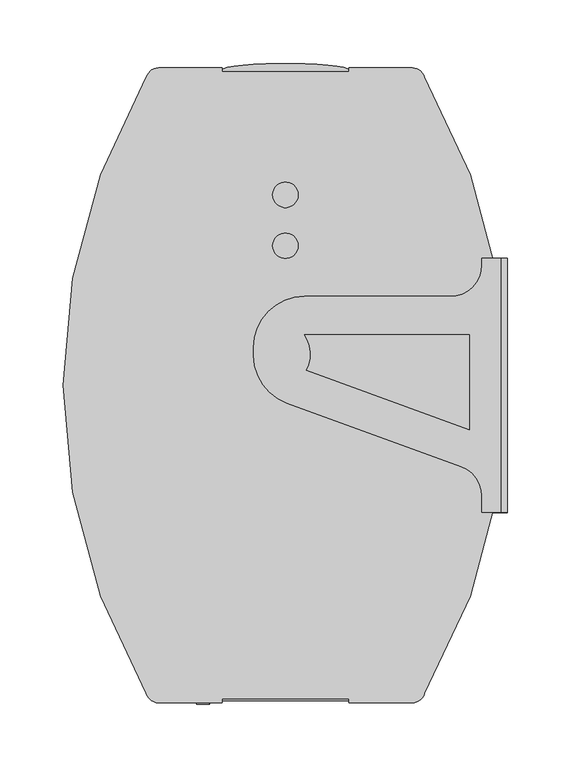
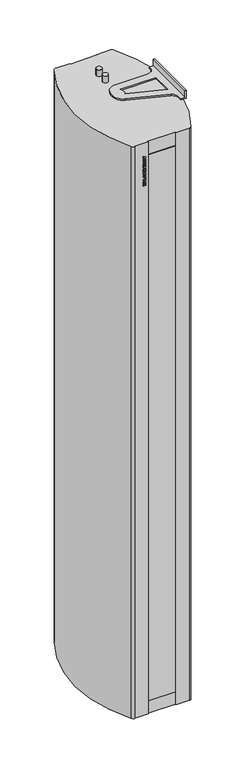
"""IFC4 building model written with IfcOpenShell, lengths in millimetres: proxy geometry, ADSK_Завеса дизайнерская_Водяная : KVC-S22W35-31."""

from ifc_helpers import new_model, si_unit, point, frame, origin, place, context, project, spatial, polyline, circle_curve, ellipse_curve, trimmed, outline, extrude, faceted_brep, source, transform, mapped, element, save
from ifc_brep_helpers import plane_surface, cylinder_surface, revolved_surface, extruded_surface, advanced_brep


def mechanical_equipment_8353c0a6(model_context):
    return source(origin(), model_context, "Body", "SolidModel", [
        advanced_brep(
        [(155.0, 100.0, -5.0), (170.0, 100.0, -5.0), (170.0, -100.0, -5.0), (155.0, -100.0, -5.0), (155.0, -87.5051885, -5.0), (138.5505036, -64.0128729, -5.0), (1.3191943, -14.0647611, -5.0), (-25.0, 23.5229437, -5.0), (-25.0, 30.0, -5.0), (15.0, 70.0, -5.0), (130.0, 70.0, -5.0), (155.0, 95.0, -5.0), (145.0, -34.8821335, -5.0), (145.0, 40.0, -5.0), (15.0, 40.0, -5.0), (16.5981063, 11.8523338, -5.0), (155.0, 100.0, 0.0), (155.0, 95.0, 0.0), (130.0, 70.0, 0.0), (15.0, 70.0, 0.0), (-25.0, 30.0, 0.0), (-25.0, 23.5229437, 0.0), (1.3191943, -14.0647611, 0.0), (138.5505036, -64.0128729, 0.0), (155.0, -87.5051885, 0.0), (155.0, -100.0, 0.0), (175.0, -100.0, 0.0), (175.0, 100.0, 0.0), (145.0, -34.8821335, 0.0), (16.5981063, 11.8523338, 0.0), (15.0, 40.0, 0.0), (145.0, 40.0, 0.0), (175.0, 100.0, -30.0), (170.0, 100.0, -30.0), (170.0, -100.0, -30.0), (175.0, -100.0, -30.0)],
        [
            (0, 1),
            (1, 2),
            (2, 3),
            (3, 4),
            (4, 5, circle_curve(frame((130.0, -87.5051885, -5.0), z_axis=(0.0, 0.0, 1.0), x_axis=(1.0, 0.0, 0.0)), 25.0)),
            (5, 6),
            (6, 7, circle_curve(frame((15.0, 23.5229437, -5.0), z_axis=(0.0, 0.0, -1.0), x_axis=(1.0, 0.0, 0.0)), 40.0)),
            (7, 8),
            (8, 9, circle_curve(frame((15.0, 30.0, -5.0), z_axis=(0.0, 0.0, -1.0), x_axis=(1.0, 0.0, 0.0)), 40.0)),
            (9, 10),
            (10, 11, circle_curve(frame((130.0, 95.0, -5.0), z_axis=(0.0, 0.0, 1.0), x_axis=(1.0, 0.0, 0.0)), 25.0)),
            (11, 0),
            (12, 13),
            (13, 14),
            (14, 15, circle_curve(frame((-7.1937545, 24.6207318, -5.0), z_axis=(0.0, 0.0, -1.0), x_axis=(1.0, 0.0, 0.0)), 27.0015672)),
            (15, 12),
            (16, 17),
            (17, 18, circle_curve(frame((130.0, 95.0, 0.0), z_axis=(0.0, 0.0, -1.0), x_axis=(1.0, 0.0, 0.0)), 25.0)),
            (18, 19),
            (19, 20, circle_curve(frame((15.0, 30.0, 0.0), z_axis=(0.0, 0.0, 1.0), x_axis=(1.0, 0.0, 0.0)), 40.0)),
            (20, 21),
            (21, 22, circle_curve(frame((15.0, 23.5229437, 0.0), z_axis=(0.0, 0.0, 1.0), x_axis=(1.0, 0.0, 0.0)), 40.0)),
            (22, 23),
            (23, 24, circle_curve(frame((130.0, -87.5051885, 0.0), z_axis=(0.0, 0.0, -1.0), x_axis=(1.0, 0.0, 0.0)), 25.0)),
            (24, 25),
            (25, 26),
            (26, 27),
            (27, 16),
            (28, 29),
            (29, 30, circle_curve(frame((-7.1937545, 24.6207318, 0.0), z_axis=(0.0, 0.0, 1.0), x_axis=(1.0, 0.0, 0.0)), 27.0015672)),
            (30, 31),
            (31, 28),
            (27, 32),
            (32, 33),
            (33, 1),
            (0, 16),
            (7, 21),
            (20, 8),
            (2, 34),
            (34, 35),
            (35, 26),
            (25, 3),
            (35, 32),
            (11, 17),
            (10, 18),
            (9, 19),
            (6, 22),
            (5, 23),
            (4, 24),
            (15, 29),
            (28, 12),
            (14, 30),
            (13, 31),
            (34, 33),
        ],
        [
            plane_surface(frame((-25.0, 100.0, -5.0), z_axis=(0.0, 0.0, -1.0), x_axis=(-1.0, 0.0, 0.0))),
            plane_surface(frame((-25.0, 100.0, 0.0), z_axis=(0.0, 0.0, 1.0), x_axis=(1.0, 0.0, 0.0))),
            plane_surface(frame((175.0, 100.0, -5.0), z_axis=(0.0, 1.0, 0.0), x_axis=(0.0, 0.0, 1.0))),
            plane_surface(frame((-25.0, 30.0, -5.0), z_axis=(-1.0, 0.0, 0.0), x_axis=(0.0, 0.0, 1.0))),
            plane_surface(frame((155.0, -100.0, -5.0), z_axis=(0.0, -1.0, 0.0), x_axis=(0.0, 0.0, 1.0))),
            plane_surface(frame((175.0, -100.0, -5.0), z_axis=(1.0, 0.0, 0.0), x_axis=(0.0, 0.0, 1.0))),
            plane_surface(frame((155.0, 100.0, -5.0), z_axis=(-1.0, 0.0, 0.0), x_axis=(0.0, 0.0, 1.0))),
            revolved_surface(polyline([(155.0, 95.0, 0.0), (155.0, 95.0, -5.0)]), (130.0, 95.0, 0.0), (0.0, 0.0, 1.0)),
            plane_surface(frame((130.0, 70.0, -5.0), z_axis=(0.0, 1.0, 0.0), x_axis=(0.0, 0.0, 1.0))),
            cylinder_surface(frame((15.0, 30.0, 0.0), z_axis=(0.0, 0.0, -1.0), x_axis=(1.0, 0.0, 0.0)), 40.0),
            cylinder_surface(frame((15.0, 23.5229437, 0.0), z_axis=(0.0, 0.0, -1.0), x_axis=(1.0, 0.0, 0.0)), 40.0),
            plane_surface(frame((1.3191943, -14.0647611, -5.0), z_axis=(-0.3420201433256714, -0.9396926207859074, 0.0), x_axis=(0.0, 0.0, 1.0))),
            revolved_surface(polyline([(155.0, -87.5051885, 0.0), (155.0, -87.5051885, -5.0)]), (130.0, -87.5051885, 0.0), (0.0, 0.0, 1.0)),
            plane_surface(frame((155.0, -87.5051885, -5.0), z_axis=(-1.0, 0.0, 0.0), x_axis=(0.0, 0.0, 1.0))),
            plane_surface(frame((145.0, -34.8821335, -5.0), z_axis=(0.3420201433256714, 0.9396926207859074, 0.0), x_axis=(0.0, 0.0, 1.0))),
            cylinder_surface(frame((-7.1937545, 24.6207318, 0.0), z_axis=(0.0, 0.0, -1.0), x_axis=(1.0, 0.0, 0.0)), 27.0015672),
            plane_surface(frame((15.0, 40.0, -5.0), z_axis=(0.0, -1.0, 0.0), x_axis=(0.0, 0.0, 1.0))),
            plane_surface(frame((145.0, 40.0, -5.0), z_axis=(-1.0, 0.0, 0.0), x_axis=(0.0, 0.0, 1.0))),
            plane_surface(frame((170.0, 126.8049179, -30.0), z_axis=(0.0, 0.0, -1.0), x_axis=(0.0, -1.0, 0.0))),
            plane_surface(frame((170.0, 100.0, -30.0), z_axis=(-1.0, 0.0, 0.0), x_axis=(0.0, 0.0, 1.0))),
        ],
        [
            (0, [[1, 2, 3, 4, 5, 6, 7, 8, 9, 10, 11, 12], [13, 14, 15, 16]]),
            (1, [[17, 18, 19, 20, 21, 22, 23, 24, 25, 26, 27, 28], [29, 30, 31, 32]]),
            (2, [[-28, 33, 34, 35, -1, 36]]),
            (3, [[37, -21, 38, -8]]),
            (4, [[-3, 39, 40, 41, -26, 42]]),
            (5, [[43, -33, -27, -41]]),
            (6, [[44, -17, -36, -12]]),
            (7, [[45, -18, -44, -11]]),
            (8, [[46, -19, -45, -10]]),
            (9, [[-38, -20, -46, -9]]),
            (10, [[47, -22, -37, -7]]),
            (11, [[48, -23, -47, -6]]),
            (12, [[49, -24, -48, -5]]),
            (13, [[-42, -25, -49, -4]]),
            (14, [[50, -29, 51, -16]]),
            (15, [[52, -30, -50, -15]]),
            (16, [[53, -31, -52, -14]]),
            (17, [[-51, -32, -53, -13]]),
            (18, [[-34, -43, -40, 54]]),
            (19, [[-39, -2, -35, -54]]),
        ],
    ),
        advanced_brep(
        [(155.0, 100.0, 2219.0), (155.0, 95.0, 2219.0), (130.0, 70.0, 2219.0), (15.0, 70.0, 2219.0), (-25.0, 30.0, 2219.0), (-25.0, 23.5229437, 2219.0), (1.3191943, -14.0647611, 2219.0), (138.5505036, -64.0128729, 2219.0), (155.0, -87.5051885, 2219.0), (155.0, -100.0, 2219.0), (170.0, -100.0, 2219.0), (170.0, 100.0, 2219.0), (145.0, -34.8821335, 2219.0), (16.5981063, 11.8523338, 2219.0), (15.0, 40.0, 2219.0), (145.0, 40.0, 2219.0), (155.0, 100.0, 2214.0), (175.0, 100.0, 2214.0), (175.0, -100.0, 2214.0), (155.0, -100.0, 2214.0), (155.0, -87.5051885, 2214.0), (138.5505036, -64.0128729, 2214.0), (1.3191943, -14.0647611, 2214.0), (-25.0, 23.5229437, 2214.0), (-25.0, 30.0, 2214.0), (15.0, 70.0, 2214.0), (130.0, 70.0, 2214.0), (155.0, 95.0, 2214.0), (145.0, -34.8821335, 2214.0), (145.0, 40.0, 2214.0), (15.0, 40.0, 2214.0), (16.5981063, 11.8523338, 2214.0), (170.0, 100.0, 2244.0), (175.0, 100.0, 2244.0), (175.0, -100.0, 2244.0), (170.0, -100.0, 2244.0)],
        [
            (0, 1),
            (1, 2, circle_curve(frame((130.0, 95.0, 2219.0), z_axis=(0.0, 0.0, -1.0), x_axis=(1.0, 0.0, 0.0)), 25.0)),
            (2, 3),
            (3, 4, circle_curve(frame((15.0, 30.0, 2219.0), z_axis=(0.0, 0.0, 1.0), x_axis=(1.0, 0.0, 0.0)), 40.0)),
            (4, 5),
            (5, 6, circle_curve(frame((15.0, 23.5229437, 2219.0), z_axis=(0.0, 0.0, 1.0), x_axis=(1.0, 0.0, 0.0)), 40.0)),
            (6, 7),
            (7, 8, circle_curve(frame((130.0, -87.5051885, 2219.0), z_axis=(0.0, 0.0, -1.0), x_axis=(1.0, 0.0, 0.0)), 25.0)),
            (8, 9),
            (9, 10),
            (10, 11),
            (11, 0),
            (12, 13),
            (13, 14, circle_curve(frame((-7.1937545, 24.6207318, 2219.0), z_axis=(0.0, 0.0, 1.0), x_axis=(1.0, 0.0, 0.0)), 27.0015672)),
            (14, 15),
            (15, 12),
            (16, 17),
            (17, 18),
            (18, 19),
            (19, 20),
            (20, 21, circle_curve(frame((130.0, -87.5051885, 2214.0), z_axis=(0.0, 0.0, 1.0), x_axis=(1.0, 0.0, 0.0)), 25.0)),
            (21, 22),
            (22, 23, circle_curve(frame((15.0, 23.5229437, 2214.0), z_axis=(0.0, 0.0, -1.0), x_axis=(1.0, 0.0, 0.0)), 40.0)),
            (23, 24),
            (24, 25, circle_curve(frame((15.0, 30.0, 2214.0), z_axis=(0.0, 0.0, -1.0), x_axis=(1.0, 0.0, 0.0)), 40.0)),
            (25, 26),
            (26, 27, circle_curve(frame((130.0, 95.0, 2214.0), z_axis=(0.0, 0.0, 1.0), x_axis=(1.0, 0.0, 0.0)), 25.0)),
            (27, 16),
            (28, 29),
            (29, 30),
            (30, 31, circle_curve(frame((-7.1937545, 24.6207318, 2214.0), z_axis=(0.0, 0.0, -1.0), x_axis=(1.0, 0.0, 0.0)), 27.0015672)),
            (31, 28),
            (16, 0),
            (11, 32),
            (32, 33),
            (33, 17),
            (4, 24),
            (23, 5),
            (9, 19),
            (18, 34),
            (34, 35),
            (35, 10),
            (33, 34),
            (27, 1),
            (26, 2),
            (25, 3),
            (22, 6),
            (21, 7),
            (20, 8),
            (12, 28),
            (31, 13),
            (30, 14),
            (29, 15),
            (32, 35),
        ],
        [
            plane_surface(frame((-25.0, 100.0, 2219.0), z_axis=(0.0, 0.0, 1.0), x_axis=(-1.0, 0.0, 0.0))),
            plane_surface(frame((-25.0, 100.0, 2214.0), z_axis=(0.0, 0.0, -1.0), x_axis=(1.0, 0.0, 0.0))),
            plane_surface(frame((175.0, 100.0, 2219.0), z_axis=(0.0, 1.0, 0.0), x_axis=(0.0, 0.0, -1.0))),
            plane_surface(frame((-25.0, 30.0, 2219.0), z_axis=(-1.0, 0.0, 0.0), x_axis=(0.0, 0.0, -1.0))),
            plane_surface(frame((155.0, -100.0, 2219.0), z_axis=(0.0, -1.0, 0.0), x_axis=(0.0, 0.0, -1.0))),
            plane_surface(frame((175.0, -100.0, 2219.0), z_axis=(1.0, 0.0, 0.0), x_axis=(0.0, 0.0, -1.0))),
            plane_surface(frame((155.0, 100.0, 2219.0), z_axis=(-1.0, 0.0, 0.0), x_axis=(0.0, 0.0, -1.0))),
            revolved_surface(polyline([(155.0, 95.0, 2214.0), (155.0, 95.0, 2219.0)]), (130.0, 95.0, 2214.0), (0.0, 0.0, -1.0)),
            plane_surface(frame((130.0, 70.0, 2219.0), z_axis=(0.0, 1.0, 0.0), x_axis=(0.0, 0.0, -1.0))),
            cylinder_surface(frame((15.0, 30.0, 2214.0), z_axis=(0.0, 0.0, 1.0), x_axis=(1.0, 0.0, 0.0)), 40.0),
            cylinder_surface(frame((15.0, 23.5229437, 2214.0), z_axis=(0.0, 0.0, 1.0), x_axis=(1.0, 0.0, 0.0)), 40.0),
            plane_surface(frame((1.3191943, -14.0647611, 2219.0), z_axis=(-0.3420201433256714, -0.9396926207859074, 0.0), x_axis=(0.0, 0.0, -1.0))),
            revolved_surface(polyline([(155.0, -87.5051885, 2214.0), (155.0, -87.5051885, 2219.0)]), (130.0, -87.5051885, 2214.0), (0.0, 0.0, -1.0)),
            plane_surface(frame((155.0, -87.5051885, 2219.0), z_axis=(-1.0, 0.0, 0.0), x_axis=(0.0, 0.0, -1.0))),
            plane_surface(frame((145.0, -34.8821335, 2219.0), z_axis=(0.3420201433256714, 0.9396926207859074, 0.0), x_axis=(0.0, 0.0, -1.0))),
            cylinder_surface(frame((-7.1937545, 24.6207318, 2214.0), z_axis=(0.0, 0.0, 1.0), x_axis=(1.0, 0.0, 0.0)), 27.0015672),
            plane_surface(frame((15.0, 40.0, 2219.0), z_axis=(0.0, -1.0, 0.0), x_axis=(0.0, 0.0, -1.0))),
            plane_surface(frame((145.0, 40.0, 2219.0), z_axis=(-1.0, 0.0, 0.0), x_axis=(0.0, 0.0, -1.0))),
            plane_surface(frame((170.0, 126.8049179, 2244.0), z_axis=(0.0, 0.0, 1.0), x_axis=(0.0, -1.0, 0.0))),
            plane_surface(frame((170.0, 100.0, 2244.0), z_axis=(-1.0, 0.0, 0.0), x_axis=(0.0, 0.0, -1.0))),
        ],
        [
            (0, [[1, 2, 3, 4, 5, 6, 7, 8, 9, 10, 11, 12], [13, 14, 15, 16]]),
            (1, [[17, 18, 19, 20, 21, 22, 23, 24, 25, 26, 27, 28], [29, 30, 31, 32]]),
            (2, [[33, -12, 34, 35, 36, -17]]),
            (3, [[-5, 37, -24, 38]]),
            (4, [[39, -19, 40, 41, 42, -10]]),
            (5, [[-40, -18, -36, 43]]),
            (6, [[-1, -33, -28, 44]]),
            (7, [[-2, -44, -27, 45]]),
            (8, [[-3, -45, -26, 46]]),
            (9, [[-4, -46, -25, -37]]),
            (10, [[-6, -38, -23, 47]]),
            (11, [[-7, -47, -22, 48]]),
            (12, [[-8, -48, -21, 49]]),
            (13, [[-9, -49, -20, -39]]),
            (14, [[-13, 50, -32, 51]]),
            (15, [[-14, -51, -31, 52]]),
            (16, [[-15, -52, -30, 53]]),
            (17, [[-16, -53, -29, -50]]),
            (18, [[54, -41, -43, -35]]),
            (19, [[-54, -34, -11, -42]]),
        ],
    ),
        extrude(outline(polyline([(2050.0784314, -70.0), (2050.0784314, -60.0), (2053.2156863, -60.0), (2053.2156863, -61.7647059), (2054.9865196, -63.7745098), (2056.8186275, -60.0), (2060.6666667, -60.0), (2057.192402, -66.2775735), (2060.4705882, -70.0), (2056.1997549, -70.0), (2053.2156863, -66.2224265), (2053.2156863, -70.0), (2050.0784314, -70.0)])), frame((0.0, -251.0, 0.0), z_axis=(0.0, 1.0, 0.0), x_axis=(0.0, 0.0, 1.0)), (0.0, 0.0, 1.0), 1.0),
        extrude(outline(polyline([(2067.6642157, -61.5686275), (2068.1176471, -60.0), (2071.4509804, -60.0), (2068.0778186, -70.0), (2064.0398284, -70.0), (2060.6666667, -60.0), (2064.0, -60.0), (2064.4319853, -61.5686275), (2067.6642157, -61.5686275)]), holes=[polyline([(2067.0698529, -63.9215686), (2065.0814951, -63.9215686), (2066.0588235, -67.4540441), (2067.0698529, -63.9215686)])]), frame((0.0, -251.0, 0.0), z_axis=(0.0, 1.0, 0.0), x_axis=(0.0, 0.0, 1.0)), (0.0, 0.0, 1.0), 1.0),
        extrude(outline(polyline([(2072.4313725, -70.0), (2072.4313725, -60.0), (2080.2745098, -60.0), (2080.2745098, -62.3529412), (2075.5686275, -62.3529412), (2075.5686275, -70.0), (2072.4313725, -70.0)])), frame((0.0, -251.0, 0.0), z_axis=(0.0, 1.0, 0.0), x_axis=(0.0, 0.0, 1.0)), (0.0, 0.0, 1.0), 1.0),
        extrude(outline(polyline([(2087.6642157, -61.5686275), (2088.1176471, -60.0), (2091.4509804, -60.0), (2088.0778186, -70.0), (2084.0398284, -70.0), (2080.6666667, -60.0), (2084.0, -60.0), (2084.4319853, -61.5686275), (2087.6642157, -61.5686275)]), holes=[polyline([(2087.0698529, -63.9215686), (2085.0814951, -63.9215686), (2086.0588235, -67.4540441), (2087.0698529, -63.9215686)])]), frame((0.0, -251.0, 0.0), z_axis=(0.0, 1.0, 0.0), x_axis=(0.0, 0.0, 1.0)), (0.0, 0.0, 1.0), 1.0),
        extrude(outline(polyline([(2091.8431373, -63.3394608), (2092.9491422, -60.8026961), (2096.4601716, -59.8039216), (2098.8560049, -60.2297794), (2100.3342525, -61.4813113), (2100.8627451, -63.28125), (2100.4675245, -64.7870711), (2099.2022059, -65.9129902), (2096.3223039, -66.8106618), (2096.1905637, -68.4313725), (2096.9641544, -68.1050858), (2097.3333333, -67.0588235), (2100.4705882, -67.2395833), (2099.2925858, -69.4883578), (2096.4172794, -70.1960784), (2093.9969363, -69.8039216), (2092.6749387, -68.7285539), (2092.2352941, -67.276348), (2093.1023284, -65.3492647), (2095.9761029, -64.1237745), (2097.7254902, -62.8186275), (2097.4114583, -62.0818015), (2096.5183824, -61.7647059), (2095.3204657, -62.3958333), (2094.9803922, -63.5294118), (2091.8431373, -63.3394608)])), frame((0.0, -251.0, 0.0), z_axis=(0.0, 1.0, 0.0), x_axis=(0.0, 0.0, 1.0)), (0.0, 0.0, 1.0), 1.0),
        extrude(outline(polyline([(2102.4313725, -70.0), (2102.4313725, -60.0), (2105.5686275, -60.0), (2105.5686275, -64.1176471), (2108.9019608, -64.1176471), (2108.9019608, -60.0), (2112.0392157, -60.0), (2112.0392157, -70.0), (2108.9019608, -70.0), (2108.9019608, -66.4705882), (2105.5686275, -66.4705882), (2105.5686275, -70.0), (2102.4313725, -70.0)])), frame((0.0, -251.0, 0.0), z_axis=(0.0, 1.0, 0.0), x_axis=(0.0, 0.0, 1.0)), (0.0, 0.0, 1.0), 1.0),
        extrude(outline(polyline([(2114.0, -70.0), (2114.0, -60.0), (2116.9411765, -60.0), (2116.9411765, -65.4901961), (2120.6666667, -60.0), (2123.6078431, -60.0), (2123.6078431, -70.0), (2120.6666667, -70.0), (2120.6666667, -64.4730392), (2116.9197304, -70.0), (2114.0, -70.0)])), frame((0.0, -251.0, 0.0), z_axis=(0.0, 1.0, 0.0), x_axis=(0.0, 0.0, 1.0)), (0.0, 0.0, 1.0), 1.0),
        extrude(outline(polyline([(-60.0, -251.0), (-70.0, -251.0), (-70.0, -250.0), (-60.0, -250.0), (-60.0, -251.0)])), frame((0.0, 0.0, 2125.7647059), z_axis=(0.0, 0.0, 1.0), x_axis=(1.0, 0.0, 0.0)), (0.0, 0.0, 1.0), 3.1372549),
        extrude(outline(polyline([(2131.0588235, -70.0), (2131.0588235, -60.0), (2134.1960784, -60.0), (2134.1960784, -61.7647059), (2135.9669118, -63.7745098), (2137.7990196, -60.0), (2141.6470588, -60.0), (2138.1727941, -66.2775735), (2141.4509804, -70.0), (2137.1801471, -70.0), (2134.1960784, -66.2224265), (2134.1960784, -70.0), (2131.0588235, -70.0)])), frame((0.0, -251.0, 0.0), z_axis=(0.0, 1.0, 0.0), x_axis=(0.0, 0.0, 1.0)), (0.0, 0.0, 1.0), 1.0),
        extrude(outline(polyline([(2142.2352941, -64.9938725), (2142.9261642, -62.0603554), (2144.7291667, -60.346201), (2147.5386029, -59.8039216), (2150.3250613, -60.4304534), (2152.036152, -62.1859681), (2152.627451, -65.0765931), (2151.2732843, -68.8495711), (2147.4129902, -70.1960784), (2143.6032475, -68.8250613), (2142.2352941, -64.9938725)]), holes=[polyline([(2145.372549, -64.9938725), (2145.9301471, -67.1813725), (2147.4068627, -67.8431373), (2148.9295343, -67.1920956), (2149.4901961, -65.1286765), (2148.9525123, -62.8048407), (2147.4344363, -62.1568627), (2145.9270833, -62.8186275), (2145.372549, -64.9938725)])]), frame((0.0, -251.0, 0.0), z_axis=(0.0, 1.0, 0.0), x_axis=(0.0, 0.0, 1.0)), (0.0, 0.0, 1.0), 1.0),
        extrude(outline(polyline([(2153.4117647, -70.0), (2157.1280637, -60.0), (2160.4583333, -60.0), (2164.1960784, -70.0), (2160.8627451, -70.0), (2158.8039216, -62.8033088), (2156.7420343, -70.0), (2153.4117647, -70.0)])), frame((0.0, -251.0, 0.0), z_axis=(0.0, 1.0, 0.0), x_axis=(0.0, 0.0, 1.0)), (0.0, 0.0, 1.0), 1.0),
        advanced_brep(
        [(-50.0, 250.0, 2214.0), (-100.0, 250.0, 2214.0), (-109.6523684, 242.6137681, 2214.0), (-109.6523684, -242.6137681, 2214.0), (-100.0, -250.0, 2214.0), (-50.0, -250.0, 2214.0), (-50.0, -247.0, 2214.0), (50.0, -247.0, 2214.0), (50.0, -250.0, 2214.0), (100.0, -250.0, 2214.0), (109.6523684, -242.6137681, 2214.0), (109.6523684, 242.6137681, 2214.0), (100.0, 250.0, 2214.0), (50.0, 250.0, 2214.0), (50.0, 247.0, 2214.0), (-50.0, 247.0, 2214.0), (10.0, 150.0, 2214.0), (-10.0, 150.0, 2214.0), (10.0, 110.0, 2214.0), (-10.0, 110.0, 2214.0), (-50.0, 250.0, 0.0), (-50.0, 247.0, 0.0), (50.0, 247.0, 0.0), (50.0, 250.0, 0.0), (100.0, 250.0, 0.0), (109.6523684, 242.6137681, 0.0), (109.6523684, -242.6137681, 0.0), (100.0, -250.0, 0.0), (50.0, -250.0, 0.0), (50.0, -247.0, 0.0), (-50.0, -247.0, 0.0), (-50.0, -250.0, 0.0), (-100.0, -250.0, 0.0), (-109.6523684, -242.6137681, 0.0), (-109.6523684, 242.6137681, 0.0), (-100.0, 250.0, 0.0), (-10.0, 150.0, 2239.0), (10.0, 150.0, 2239.0), (-10.0, 110.0, 2239.0), (10.0, 110.0, 2239.0)],
        [
            (0, 1),
            (1, 2, circle_curve(frame((-100.0, 240.0, 2214.0), z_axis=(0.0, 0.0, 1.0), x_axis=(1.0, 0.0, 0.0)), 10.0)),
            (2, 3, circle_curve(frame((308.0454594, 0.0, 2214.0), z_axis=(0.0, 0.0, 1.0), x_axis=(1.0, 0.0, 0.0)), 483.0454594)),
            (3, 4, circle_curve(frame((-100.0, -240.0, 2214.0), z_axis=(0.0, 0.0, 1.0), x_axis=(1.0, 0.0, 0.0)), 10.0)),
            (4, 5),
            (5, 6),
            (6, 7),
            (7, 8),
            (8, 9),
            (9, 10, circle_curve(frame((100.0, -240.0, 2214.0), z_axis=(0.0, 0.0, 1.0), x_axis=(1.0, 0.0, 0.0)), 10.0)),
            (10, 11, circle_curve(frame((-308.0454594, 0.0, 2214.0), z_axis=(0.0, 0.0, 1.0), x_axis=(1.0, 0.0, 0.0)), 483.0454594)),
            (11, 12, circle_curve(frame((100.0, 240.0, 2214.0), z_axis=(0.0, 0.0, 1.0), x_axis=(1.0, 0.0, 0.0)), 10.0)),
            (12, 13),
            (13, 14),
            (14, 15),
            (15, 0),
            (16, 17, circle_curve(frame((0.0, 150.0, 2214.0), z_axis=(0.0, 0.0, -1.0), x_axis=(1.0, 0.0, 0.0)), 10.0)),
            (17, 16, circle_curve(frame((0.0, 150.0, 2214.0), z_axis=(0.0, 0.0, -1.0), x_axis=(1.0, 0.0, 0.0)), 10.0)),
            (18, 19, circle_curve(frame((0.0, 110.0, 2214.0), z_axis=(0.0, 0.0, -1.0), x_axis=(1.0, 0.0, 0.0)), 10.0)),
            (19, 18, circle_curve(frame((0.0, 110.0, 2214.0), z_axis=(0.0, 0.0, -1.0), x_axis=(1.0, 0.0, 0.0)), 10.0)),
            (20, 21),
            (21, 22),
            (22, 23),
            (23, 24),
            (24, 25, circle_curve(frame((100.0, 240.0, 0.0), z_axis=(0.0, 0.0, -1.0), x_axis=(1.0, 0.0, 0.0)), 10.0)),
            (25, 26, circle_curve(frame((-308.0454594, 0.0, 0.0), z_axis=(0.0, 0.0, -1.0), x_axis=(1.0, 0.0, 0.0)), 483.0454594)),
            (26, 27, circle_curve(frame((100.0, -240.0, 0.0), z_axis=(0.0, 0.0, -1.0), x_axis=(1.0, 0.0, 0.0)), 10.0)),
            (27, 28),
            (28, 29),
            (29, 30),
            (30, 31),
            (31, 32),
            (32, 33, circle_curve(frame((-100.0, -240.0, 0.0), z_axis=(0.0, 0.0, -1.0), x_axis=(1.0, 0.0, 0.0)), 10.0)),
            (33, 34, circle_curve(frame((308.0454594, 0.0, 0.0), z_axis=(0.0, 0.0, -1.0), x_axis=(1.0, 0.0, 0.0)), 483.0454594)),
            (34, 35, circle_curve(frame((-100.0, 240.0, 0.0), z_axis=(0.0, 0.0, -1.0), x_axis=(1.0, 0.0, 0.0)), 10.0)),
            (35, 20),
            (0, 20),
            (35, 1),
            (34, 2),
            (33, 3),
            (32, 4),
            (8, 28),
            (27, 9),
            (31, 5),
            (30, 6),
            (29, 7),
            (12, 24),
            (23, 13),
            (22, 14),
            (21, 15),
            (36, 37, circle_curve(frame((0.0, 150.0, 2239.0), z_axis=(0.0, 0.0, 1.0), x_axis=(1.0, 0.0, 0.0)), 10.0)),
            (37, 36, circle_curve(frame((0.0, 150.0, 2239.0), z_axis=(0.0, 0.0, 1.0), x_axis=(1.0, 0.0, 0.0)), 10.0)),
            (38, 39, circle_curve(frame((0.0, 110.0, 2239.0), z_axis=(0.0, 0.0, 1.0), x_axis=(1.0, 0.0, 0.0)), 10.0)),
            (39, 38, circle_curve(frame((0.0, 110.0, 2239.0), z_axis=(0.0, 0.0, 1.0), x_axis=(1.0, 0.0, 0.0)), 10.0)),
            (36, 17),
            (16, 37),
            (38, 19),
            (18, 39),
            (26, 10),
            (25, 11),
        ],
        [
            plane_surface(frame((-93.2688019, 250.0, 2214.0), z_axis=(0.0, 0.0, 1.0), x_axis=(-1.0, 0.0, 0.0))),
            plane_surface(frame((-93.2688019, 250.0, 0.0), z_axis=(0.0, 0.0, -1.0), x_axis=(1.0, 0.0, 0.0))),
            plane_surface(frame((-50.0, 250.0, 2214.0), z_axis=(0.0, 1.0, 0.0), x_axis=(0.0, 0.0, -1.0))),
            cylinder_surface(frame((-100.0, 240.0, 0.0), z_axis=(0.0, 0.0, 1.0), x_axis=(1.0, 0.0, 0.0)), 10.0),
            cylinder_surface(frame((308.0454594, 0.0, 0.0), z_axis=(0.0, 0.0, 1.0), x_axis=(1.0, 0.0, 0.0)), 483.0454594),
            cylinder_surface(frame((-100.0, -240.0, 0.0), z_axis=(0.0, 0.0, 1.0), x_axis=(1.0, 0.0, 0.0)), 10.0),
            plane_surface(frame((50.0, -250.0, 2214.0), z_axis=(0.0, -1.0, 0.0), x_axis=(0.0, 0.0, -1.0))),
            plane_surface(frame((-100.0, -250.0, 2214.0), z_axis=(0.0, -1.0, 0.0), x_axis=(0.0, 0.0, -1.0))),
            plane_surface(frame((-50.0, -250.0, 2214.0), z_axis=(1.0, 0.0, 0.0), x_axis=(0.0, 0.0, -1.0))),
            plane_surface(frame((-50.0, -247.0, 2214.0), z_axis=(0.0, -1.0, 0.0), x_axis=(0.0, 0.0, -1.0))),
            plane_surface(frame((50.0, -247.0, 2214.0), z_axis=(-1.0, 0.0, 0.0), x_axis=(0.0, 0.0, -1.0))),
            plane_surface(frame((100.0, 250.0, 2214.0), z_axis=(0.0, 1.0, 0.0), x_axis=(0.0, 0.0, -1.0))),
            plane_surface(frame((50.0, 250.0, 2214.0), z_axis=(-1.0, 0.0, 0.0), x_axis=(0.0, 0.0, -1.0))),
            plane_surface(frame((50.0, 247.0, 2214.0), z_axis=(0.0, 1.0, 0.0), x_axis=(0.0, 0.0, -1.0))),
            plane_surface(frame((-50.0, 247.0, 2214.0), z_axis=(1.0, 0.0, 0.0), x_axis=(0.0, 0.0, -1.0))),
            plane_surface(frame((10.0, 150.0, 2239.0), z_axis=(0.0, 0.0, 1.0), x_axis=(0.0, 1.0, 0.0))),
            cylinder_surface(frame((0.0, 150.0, 2214.0), z_axis=(0.0, 0.0, 1.0), x_axis=(1.0, 0.0, 0.0)), 10.0),
            cylinder_surface(frame((0.0, 110.0, 0.0), z_axis=(0.0, 0.0, 1.0), x_axis=(1.0, 0.0, 0.0)), 10.0),
            cylinder_surface(frame((100.0, -240.0, 0.0), z_axis=(0.0, 0.0, 1.0), x_axis=(1.0, 0.0, 0.0)), 10.0),
            cylinder_surface(frame((-308.0454594, 0.0, 0.0), z_axis=(0.0, 0.0, 1.0), x_axis=(1.0, 0.0, 0.0)), 483.0454594),
            cylinder_surface(frame((100.0, 240.0, 0.0), z_axis=(0.0, 0.0, 1.0), x_axis=(1.0, 0.0, 0.0)), 10.0),
        ],
        [
            (0, [[1, 2, 3, 4, 5, 6, 7, 8, 9, 10, 11, 12, 13, 14, 15, 16], [17, 18], [19, 20]]),
            (1, [[21, 22, 23, 24, 25, 26, 27, 28, 29, 30, 31, 32, 33, 34, 35, 36]]),
            (2, [[-1, 37, -36, 38]]),
            (3, [[-2, -38, -35, 39]]),
            (4, [[-3, -39, -34, 40]]),
            (5, [[-4, -40, -33, 41]]),
            (6, [[-9, 42, -28, 43]]),
            (7, [[-5, -41, -32, 44]]),
            (8, [[-6, -44, -31, 45]]),
            (9, [[-7, -45, -30, 46]]),
            (10, [[-8, -46, -29, -42]]),
            (11, [[-13, 47, -24, 48]]),
            (12, [[-14, -48, -23, 49]]),
            (13, [[-15, -49, -22, 50]]),
            (14, [[-16, -50, -21, -37]]),
            (15, [[51, 52]]),
            (15, [[53, 54]]),
            (16, [[-51, 55, -17, 56]]),
            (16, [[-52, -56, -18, -55]]),
            (17, [[-53, 57, -19, 58]]),
            (17, [[-54, -58, -20, -57]]),
            (18, [[-10, -43, -27, 59]]),
            (19, [[-11, -59, -26, 60]]),
            (20, [[-12, -60, -25, -47]]),
        ],
    ),
        faceted_brep([(50.0, -247.0, 2164.0), (-50.0, -247.0, 2164.0), (-50.0, -248.5, 2164.0), (50.0, -248.5, 2164.0), (50.0, -247.0, 50.0), (50.0, -248.5, 50.0), (-50.0, -248.5, 50.0), (-50.0, -247.0, 50.0)], [[[0, 1, 2, 3]], [[4, 5, 6, 7]], [[1, 0, 4, 7]], [[2, 1, 7, 6]], [[3, 2, 6, 5]], [[0, 3, 5, 4]]]),
        advanced_brep(
        [(-50.0, 248.5, 2164.0), (-50.0, 247.0, 2164.0), (50.0, 247.0, 2164.0), (50.0, 248.5, 2164.0), (-50.0, 248.5, 50.0), (50.0, 248.5, 50.0), (50.0, 247.0, 50.0), (-50.0, 247.0, 50.0)],
        [
            (0, 1),
            (1, 2),
            (2, 3),
            (3, 0, ellipse_curve(frame((0.0, 248.5, 2164.0), z_axis=(0.0, 0.0, 1.0), x_axis=(-1.0, 0.0, 0.0)), 50.0, 5.0)),
            (4, 5, ellipse_curve(frame((0.0, 248.5, 50.0), z_axis=(0.0, 0.0, -1.0), x_axis=(-1.0, 0.0, 0.0)), 50.0, 5.0)),
            (5, 6),
            (6, 7),
            (7, 4),
            (0, 4),
            (7, 1),
            (6, 2),
            (5, 3),
        ],
        [
            plane_surface(frame((-50.0, -247.0, 2164.0), z_axis=(0.0, 0.0, 1.0), x_axis=(-1.0, 0.0, 0.0))),
            plane_surface(frame((-50.0, -247.0, 50.0), z_axis=(0.0, 0.0, -1.0), x_axis=(1.0, 0.0, 0.0))),
            plane_surface(frame((-50.0, 248.5, 2164.0), z_axis=(-1.0, 0.0, 0.0), x_axis=(0.0, 0.0, -1.0))),
            plane_surface(frame((-50.0, 247.0, 2164.0), z_axis=(0.0, -1.0, 0.0), x_axis=(0.0, 0.0, -1.0))),
            plane_surface(frame((50.0, 247.0, 2164.0), z_axis=(1.0, 0.0, 0.0), x_axis=(0.0, 0.0, -1.0))),
            extruded_surface(trimmed(ellipse_curve(frame((0.0, 248.5, -2114.0), z_axis=(0.0, 0.0, 1.0), x_axis=(-1.0, 0.0, 0.0)), 50.0, 5.0), [point((50.0, 248.5, -2114.0))], [point((-50.0, 248.5, -2114.0))], True, "CARTESIAN"), (0.0, 0.0, 2114.0), 2114.0),
        ],
        [
            (0, [[1, 2, 3, 4]]),
            (1, [[5, 6, 7, 8]]),
            (2, [[-1, 9, -8, 10]]),
            (3, [[-2, -10, -7, 11]]),
            (4, [[-3, -11, -6, 12]]),
            (5, [[-4, -12, -5, -9]]),
        ],
    ),
    ])


if __name__ == "__main__":
    model = new_model("IFC4")
    model_context = context("Model", 3, world=origin())
    ifc_project = project(units=[si_unit("LENGTHUNIT", "METRE", prefix="MILLI")], contexts=[model_context])
    site = spatial("IfcSite", under=ifc_project)
    building = spatial("IfcBuilding", under=site)
    placement = place(None, origin())
    mechanical_equipment_shape = mechanical_equipment_8353c0a6(model_context)
    element("IfcBuildingElementProxy", 1, Name="ADSK_Завеса дизайнерская_Водяная : KVC-S22W35-31", ObjectType="ADSK_Завеса дизайнерская_Водяная : KVC-S22W35-31", at=placement, inside=building, context=model_context, shape_type="MappedRepresentation", body=[
        mapped(mechanical_equipment_shape, transform((0.0, 0.0, 0.0), x_axis=(1.0, 0.0, 0.0), y_axis=(0.0, 1.0, 0.0), z_axis=(0.0, 0.0, 1.0))),
    ])
    save(model, "model.ifc")
